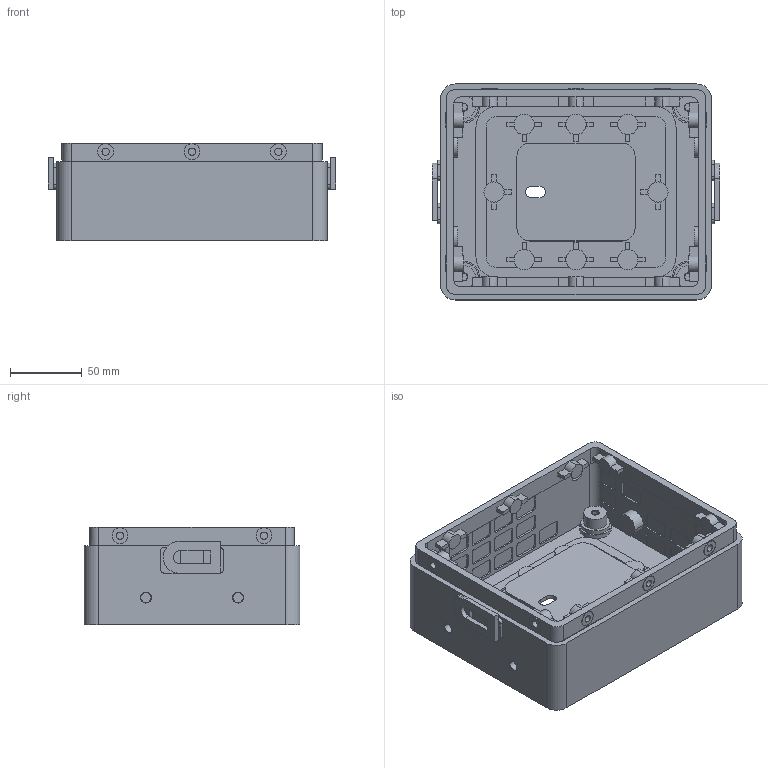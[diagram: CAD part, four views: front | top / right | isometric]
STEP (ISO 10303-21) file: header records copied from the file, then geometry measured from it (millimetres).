
FILE_DESCRIPTION(('CATIA V5 STEP Exchange','CAx-IF Rec.Pracs.--- Model Styling and Organization---1.5--- 2016-08-15','CAx-IF Rec.Pracs.---Supplemental Geometry---1.0---2011-11-01','CAx-IF Rec.Pracs.--- Composite Materials ---3.4---2017-06-13','CAx-IF Rec.Pracs.---Tessellated 3D Geometry---1.0---2015-12-17'),'2;1');
FILE_NAME('C:\Users\icemi\Desktop\RZS_Repository\RES\catia_macros\generated\RES_Enclosure_20260730_154557\RES_MainHousing.stp','2026-07-30T07:46:46+00:00',('none'),('none'),'CATIA Version 5-6 Release 2022 SP6','CATIA V5 STEP AP242 v3','none');
FILE_SCHEMA(('AP242_MANAGED_MODEL_BASED_3D_ENGINEERING_MIM_LF {1 0 10303 442 1 1 4}'));
Length unit declared in the file: millimetre
Products named in the file (1): Part2
Bounding box: 200 x 150 x 68 mm (x, y, z)
Volume: 327554.4 mm3; surface area: 186358.2 mm2
Topology: 1 solids, 1 shells, 1107 faces, 2922 edges, 1932 vertices
Faces by surface type: plane 651, cylinder 456
Entity records: 29943 total; most frequent: ORIENTED_EDGE 5844, CARTESIAN_POINT 5256, DIRECTION 3724, EDGE_CURVE 2922, VERTEX_POINT 1932, VECTOR 1860, LINE 1860, AXIS2_PLACEMENT_3D 1464
